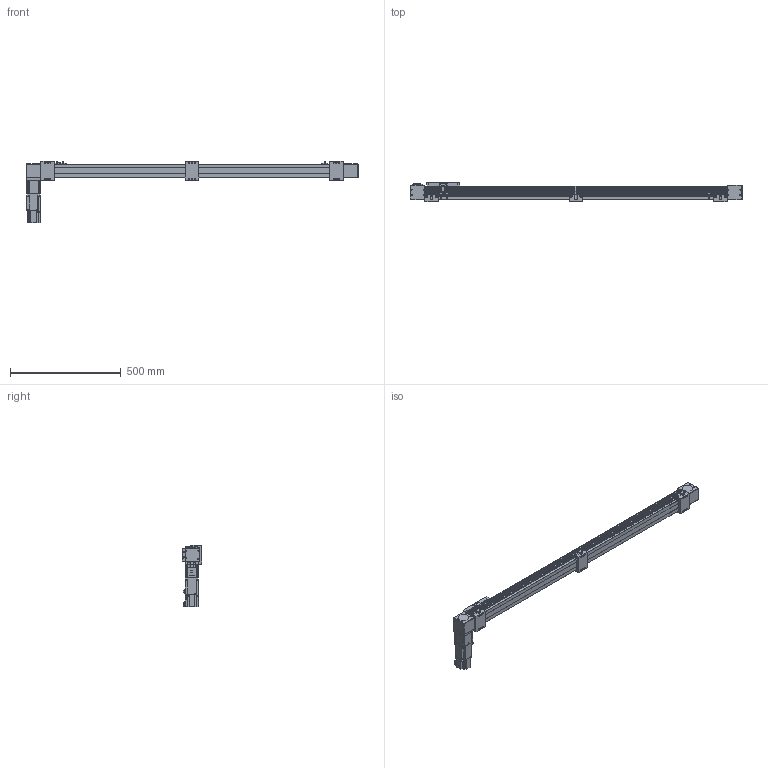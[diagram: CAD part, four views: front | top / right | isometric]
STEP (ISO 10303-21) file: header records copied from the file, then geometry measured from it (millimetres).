
FILE_DESCRIPTION(/* description */ ('STEP AP203'),/* implementation_level */ '2;1');
FILE_NAME(/* name */ 'SK60-P13-S1200-BR-T40-C1-N(0)',/* time_stamp */ '2023-04-06T03:59:47+02:00',/* author */ ('License CC BY-ND 4.0'),/* organization */ ('CADENAS'),/* preprocessor_version */ 'ST-DEVELOPER v19.3',/* originating_system */ 'PARTsolutions',/* authorisation */ ' ');
FILE_SCHEMA (('CONFIG_CONTROL_DESIGN'));
Length unit declared in the file: millimetre
Products named in the file (11): SK60-P13-S1200-BR-T40-C1-N(0); PSC140-sensor; SK60-S450_seat; SK60-S450-BL-C1_slider; SK60_body3; SK60_body6; SK60-BL_body2; T40-p1; SK60_body5; SK60_body4; SK60-S1200-BR-C1_body
Assembly tree (18 placements, depth 2):
  SK60-P13-S1200-BR-T40-C1-N(0)
    PSC140-sensor  x3
    SK60-S450_seat  x3
    SK60-S450-BL-C1_slider
    SK60_body3  x3
    SK60_body6  x2
    SK60-BL_body2  x2
    T40-p1
    SK60_body5
    SK60_body4
    SK60-S1200-BR-C1_body
Bounding box: 1500 x 90 x 279.1 mm (x, y, z)
Volume: 5708783.2 mm3; surface area: 754104.4 mm2
Topology: 18 solids, 22 shells, 878 faces, 2207 edges, 1458 vertices
Faces by surface type: plane 568, cylinder 282, cone 26, torus 2
Full cylindrical faces by diameter (mm): 2.8 x3, 3.3 x4, 4.2 x8, 4.5 x26, 4.6 x3, 4.917 x20, 5 x2, 5.478 x4, 5.5 x23, 6.5 x6, 8 x4, 8.5 x4, 9.988 x4, 10 x12, 13.556 x1, 14 x1, 14.586 x1, 19.692 x1, 38.432 x2, 43 x1, 44 x3, 47 x2, 50 x2
Entity records: 19379 total; most frequent: DIRECTION 3294, CARTESIAN_POINT 3290, ORIENTED_EDGE 3050, EDGE_CURVE 1525, AXIS2_PLACEMENT_3D 1101, LINE 1092, VECTOR 1092, VERTEX_POINT 1077
